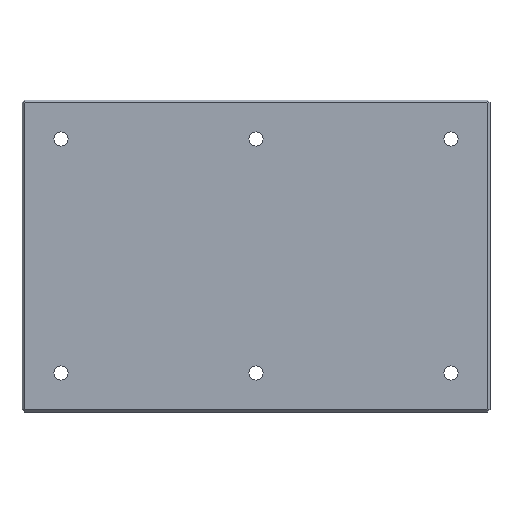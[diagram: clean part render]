
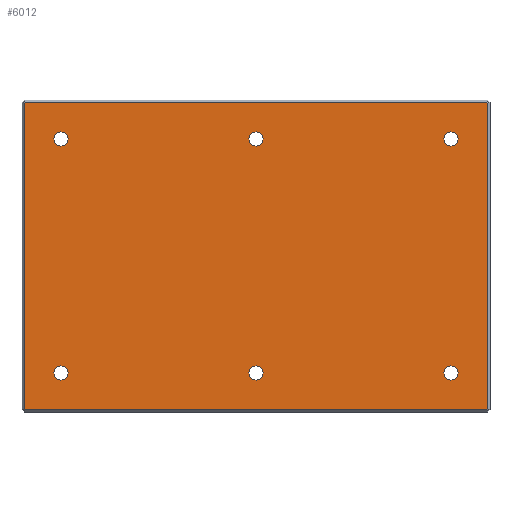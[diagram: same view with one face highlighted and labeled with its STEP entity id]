
A CAD part, front view. The second image highlights one B-rep face of the part: STEP entity #6012.
In plain terms, the highlighted planar face has unit normal (0, -1, 0).
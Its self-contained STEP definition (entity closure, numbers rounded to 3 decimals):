
#1=CARTESIAN_POINT('',(-250.,-30.,-150.));
#2=DIRECTION('',(0.,1.,0.));
#3=DIRECTION('',(1.,0.,0.));
#4=AXIS2_PLACEMENT_3D('',#1,#2,#3);
#6=CARTESIAN_POINT('',(-250.,-30.,-150.));
#7=DIRECTION('',(0.,1.,0.));
#8=DIRECTION('',(-1.,0.,0.));
#9=AXIS2_PLACEMENT_3D('',#6,#7,#8);
#11=CARTESIAN_POINT('',(0.,-30.,-150.));
#12=DIRECTION('',(0.,1.,0.));
#13=DIRECTION('',(1.,0.,0.));
#14=AXIS2_PLACEMENT_3D('',#11,#12,#13);
#16=CARTESIAN_POINT('',(0.,-30.,-150.));
#17=DIRECTION('',(0.,1.,0.));
#18=DIRECTION('',(-1.,0.,0.));
#19=AXIS2_PLACEMENT_3D('',#16,#17,#18);
#21=CARTESIAN_POINT('',(250.,-30.,-150.));
#22=DIRECTION('',(0.,1.,0.));
#23=DIRECTION('',(1.,0.,0.));
#24=AXIS2_PLACEMENT_3D('',#21,#22,#23);
#26=CARTESIAN_POINT('',(250.,-30.,-150.));
#27=DIRECTION('',(0.,1.,0.));
#28=DIRECTION('',(-1.,0.,0.));
#29=AXIS2_PLACEMENT_3D('',#26,#27,#28);
#31=CARTESIAN_POINT('',(-250.,-30.,150.));
#32=DIRECTION('',(0.,-1.,0.));
#33=DIRECTION('',(1.,0.,0.));
#34=AXIS2_PLACEMENT_3D('',#31,#32,#33);
#36=CARTESIAN_POINT('',(-250.,-30.,150.));
#37=DIRECTION('',(0.,-1.,0.));
#38=DIRECTION('',(-1.,0.,0.));
#39=AXIS2_PLACEMENT_3D('',#36,#37,#38);
#41=CARTESIAN_POINT('',(0.,-30.,150.));
#42=DIRECTION('',(0.,-1.,0.));
#43=DIRECTION('',(1.,0.,0.));
#44=AXIS2_PLACEMENT_3D('',#41,#42,#43);
#46=CARTESIAN_POINT('',(0.,-30.,150.));
#47=DIRECTION('',(0.,-1.,0.));
#48=DIRECTION('',(-1.,0.,0.));
#49=AXIS2_PLACEMENT_3D('',#46,#47,#48);
#51=CARTESIAN_POINT('',(250.,-30.,150.));
#52=DIRECTION('',(0.,-1.,0.));
#53=DIRECTION('',(1.,0.,0.));
#54=AXIS2_PLACEMENT_3D('',#51,#52,#53);
#56=CARTESIAN_POINT('',(250.,-30.,150.));
#57=DIRECTION('',(0.,-1.,0.));
#58=DIRECTION('',(-1.,0.,0.));
#59=AXIS2_PLACEMENT_3D('',#56,#57,#58);
#61=DIRECTION('',(0.707,0.,-0.707));
#62=VECTOR('',#61,1.757);
#63=CARTESIAN_POINT('',(-297.,-30.,-195.757));
#64=LINE('',#63,#62);
#65=DIRECTION('',(0.,0.,-1.));
#66=VECTOR('',#65,391.515);
#67=CARTESIAN_POINT('',(-297.,-30.,195.757));
#68=LINE('',#67,#66);
#69=DIRECTION('',(-0.707,0.,-0.707));
#70=VECTOR('',#69,1.757);
#71=CARTESIAN_POINT('',(-295.757,-30.,197.));
#72=LINE('',#71,#70);
#73=DIRECTION('',(-1.,0.,0.));
#74=VECTOR('',#73,591.515);
#75=CARTESIAN_POINT('',(295.757,-30.,197.));
#76=LINE('',#75,#74);
#77=DIRECTION('',(-0.707,0.,0.707));
#78=VECTOR('',#77,1.757);
#79=CARTESIAN_POINT('',(297.,-30.,195.757));
#80=LINE('',#79,#78);
#81=DIRECTION('',(0.,0.,1.));
#82=VECTOR('',#81,391.515);
#83=CARTESIAN_POINT('',(297.,-30.,-195.757));
#84=LINE('',#83,#82);
#85=DIRECTION('',(0.707,0.,0.707));
#86=VECTOR('',#85,1.757);
#87=CARTESIAN_POINT('',(295.757,-30.,-197.));
#88=LINE('',#87,#86);
#89=DIRECTION('',(1.,0.,0.));
#90=VECTOR('',#89,591.515);
#91=CARTESIAN_POINT('',(-295.757,-30.,-197.));
#92=LINE('',#91,#90);
#5449=CARTESIAN_POINT('',(-241.,-30.,-150.));
#5450=CARTESIAN_POINT('',(-259.,-30.,-150.));
#5451=VERTEX_POINT('',#5449);
#5452=VERTEX_POINT('',#5450);
#5493=CARTESIAN_POINT('',(9.,-30.,-150.));
#5494=CARTESIAN_POINT('',(-9.,-30.,-150.));
#5495=VERTEX_POINT('',#5493);
#5496=VERTEX_POINT('',#5494);
#5529=CARTESIAN_POINT('',(259.,-30.,-150.));
#5530=CARTESIAN_POINT('',(241.,-30.,-150.));
#5531=VERTEX_POINT('',#5529);
#5532=VERTEX_POINT('',#5530);
#5573=CARTESIAN_POINT('',(-241.,-30.,150.));
#5574=VERTEX_POINT('',#5573);
#5575=CARTESIAN_POINT('',(-259.,-30.,150.));
#5576=VERTEX_POINT('',#5575);
#5585=CARTESIAN_POINT('',(9.,-30.,150.));
#5586=VERTEX_POINT('',#5585);
#5587=CARTESIAN_POINT('',(-9.,-30.,150.));
#5588=VERTEX_POINT('',#5587);
#5597=CARTESIAN_POINT('',(259.,-30.,150.));
#5598=VERTEX_POINT('',#5597);
#5599=CARTESIAN_POINT('',(241.,-30.,150.));
#5600=VERTEX_POINT('',#5599);
#5833=CARTESIAN_POINT('',(-297.,-30.,-195.757));
#5834=CARTESIAN_POINT('',(-295.757,-30.,-197.));
#5835=VERTEX_POINT('',#5833);
#5836=VERTEX_POINT('',#5834);
#5843=CARTESIAN_POINT('',(295.757,-30.,-197.));
#5844=VERTEX_POINT('',#5843);
#5845=CARTESIAN_POINT('',(297.,-30.,-195.757));
#5846=VERTEX_POINT('',#5845);
#5851=CARTESIAN_POINT('',(297.,-30.,195.757));
#5852=VERTEX_POINT('',#5851);
#5853=CARTESIAN_POINT('',(295.757,-30.,197.));
#5854=VERTEX_POINT('',#5853);
#5859=CARTESIAN_POINT('',(-295.757,-30.,197.));
#5860=VERTEX_POINT('',#5859);
#5863=CARTESIAN_POINT('',(-297.,-30.,195.757));
#5864=VERTEX_POINT('',#5863);
#5953=CARTESIAN_POINT('',(0.,-30.,0.));
#5954=DIRECTION('',(0.,1.,0.));
#5955=DIRECTION('',(1.,0.,0.));
#5956=AXIS2_PLACEMENT_3D('',#5953,#5954,#5955);
#5957=PLANE('',#5956);
#5959=ORIENTED_EDGE('',*,*,#5958,.F.);
#5961=ORIENTED_EDGE('',*,*,#5960,.F.);
#5963=ORIENTED_EDGE('',*,*,#5962,.F.);
#5965=ORIENTED_EDGE('',*,*,#5964,.F.);
#5967=ORIENTED_EDGE('',*,*,#5966,.F.);
#5969=ORIENTED_EDGE('',*,*,#5968,.F.);
#5971=ORIENTED_EDGE('',*,*,#5970,.F.);
#5973=ORIENTED_EDGE('',*,*,#5972,.F.);
#5974=EDGE_LOOP('',(#5959,#5961,#5963,#5965,#5967,#5969,#5971,#5973));
#5975=FACE_OUTER_BOUND('',#5974,.F.);
#5977=ORIENTED_EDGE('',*,*,#5976,.F.);
#5979=ORIENTED_EDGE('',*,*,#5978,.F.);
#5980=EDGE_LOOP('',(#5977,#5979));
#5981=FACE_BOUND('',#5980,.F.);
#5983=ORIENTED_EDGE('',*,*,#5982,.F.);
#5985=ORIENTED_EDGE('',*,*,#5984,.F.);
#5986=EDGE_LOOP('',(#5983,#5985));
#5987=FACE_BOUND('',#5986,.F.);
#5989=ORIENTED_EDGE('',*,*,#5988,.T.);
#5991=ORIENTED_EDGE('',*,*,#5990,.T.);
#5992=EDGE_LOOP('',(#5989,#5991));
#5993=FACE_BOUND('',#5992,.F.);
#5995=ORIENTED_EDGE('',*,*,#5994,.T.);
#5997=ORIENTED_EDGE('',*,*,#5996,.T.);
#5998=EDGE_LOOP('',(#5995,#5997));
#5999=FACE_BOUND('',#5998,.F.);
#6001=ORIENTED_EDGE('',*,*,#6000,.T.);
#6003=ORIENTED_EDGE('',*,*,#6002,.T.);
#6004=EDGE_LOOP('',(#6001,#6003));
#6005=FACE_BOUND('',#6004,.F.);
#6007=ORIENTED_EDGE('',*,*,#6006,.F.);
#6009=ORIENTED_EDGE('',*,*,#6008,.F.);
#6010=EDGE_LOOP('',(#6007,#6009));
#6011=FACE_BOUND('',#6010,.F.);
#6012=ADVANCED_FACE('',(#5975,#5981,#5987,#5993,#5999,#6005,#6011),#5957,.F.);
#5=CIRCLE('',#4,9.);
#10=CIRCLE('',#9,9.);
#15=CIRCLE('',#14,9.);
#20=CIRCLE('',#19,9.);
#25=CIRCLE('',#24,9.);
#30=CIRCLE('',#29,9.);
#35=CIRCLE('',#34,9.);
#40=CIRCLE('',#39,9.);
#45=CIRCLE('',#44,9.);
#50=CIRCLE('',#49,9.);
#55=CIRCLE('',#54,9.);
#60=CIRCLE('',#59,9.);
#5958=EDGE_CURVE('',#5835,#5836,#64,.T.);
#5960=EDGE_CURVE('',#5864,#5835,#68,.T.);
#5962=EDGE_CURVE('',#5860,#5864,#72,.T.);
#5964=EDGE_CURVE('',#5854,#5860,#76,.T.);
#5966=EDGE_CURVE('',#5852,#5854,#80,.T.);
#5968=EDGE_CURVE('',#5846,#5852,#84,.T.);
#5970=EDGE_CURVE('',#5844,#5846,#88,.T.);
#5972=EDGE_CURVE('',#5836,#5844,#92,.T.);
#5976=EDGE_CURVE('',#5495,#5496,#15,.T.);
#5978=EDGE_CURVE('',#5496,#5495,#20,.T.);
#5982=EDGE_CURVE('',#5531,#5532,#25,.T.);
#5984=EDGE_CURVE('',#5532,#5531,#30,.T.);
#5988=EDGE_CURVE('',#5574,#5576,#35,.T.);
#5990=EDGE_CURVE('',#5576,#5574,#40,.T.);
#5994=EDGE_CURVE('',#5586,#5588,#45,.T.);
#5996=EDGE_CURVE('',#5588,#5586,#50,.T.);
#6000=EDGE_CURVE('',#5598,#5600,#55,.T.);
#6002=EDGE_CURVE('',#5600,#5598,#60,.T.);
#6006=EDGE_CURVE('',#5451,#5452,#5,.T.);
#6008=EDGE_CURVE('',#5452,#5451,#10,.T.);
